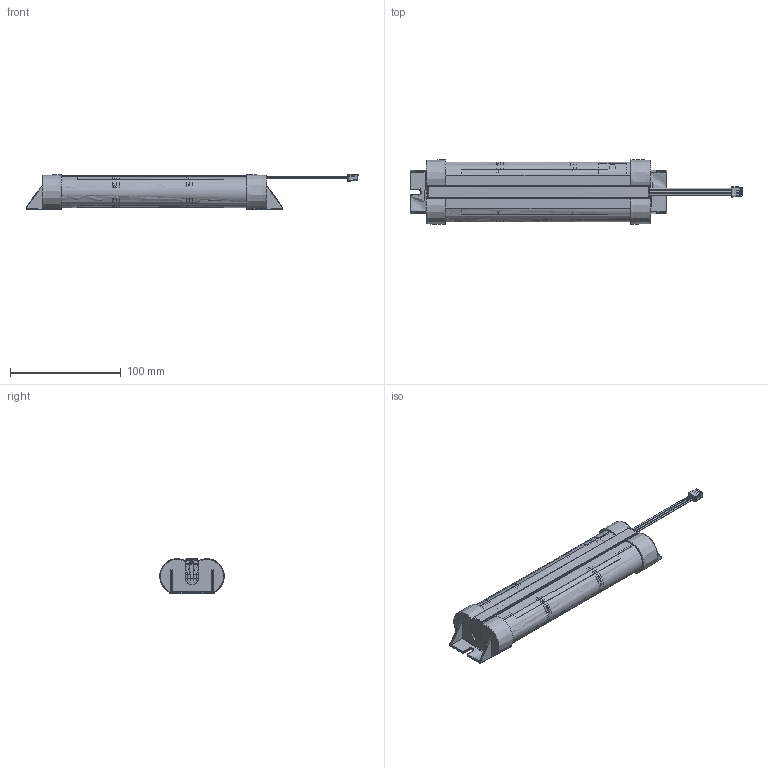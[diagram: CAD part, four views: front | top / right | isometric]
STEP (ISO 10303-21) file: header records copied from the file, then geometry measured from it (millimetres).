
FILE_DESCRIPTION((''),'2;1');
FILE_NAME('15014459Z_DMEC_28003816_3S2P','2021-05-03T07:58:56',('Juergen.Hrach'),(''),'CREO PARAMETRIC BY PTC INC, 2019164','CREO PARAMETRIC BY PTC INC, 2019164','');
FILE_SCHEMA(('CONFIG_CONTROL_DESIGN'));
Products named in the file (1): 15014459Z_DMEC_28003816_3S2P
Bounding box: 300.02 x 58.33 x 32.14 mm (x, y, z)
Volume: 9077.3 mm3; surface area: 133925.4 mm2
Topology: 7 solids, 14 shells, 1245 faces, 3382 edges, 2062 vertices
Faces by surface type: bspline 1060, revolution 185
Entity records: 115144 total; most frequent: CARTESIAN_POINT 89919, ORIENTED_EDGE 6588, EDGE_CURVE 3315, DIRECTION 2456, VERTEX_POINT 2062, VECTOR 1587, LINE 1587, B_SPLINE_CURVE_WITH_KNOTS 1455
